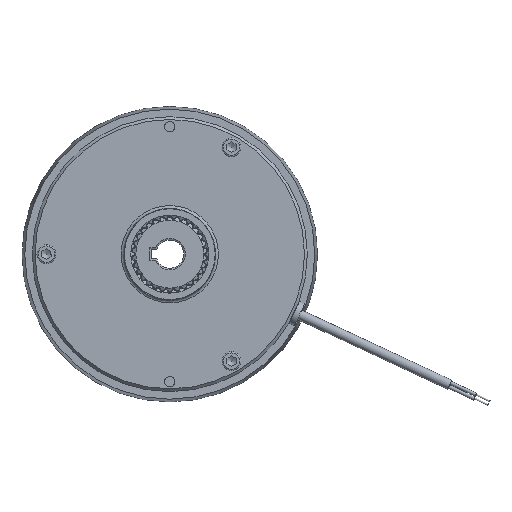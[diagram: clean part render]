
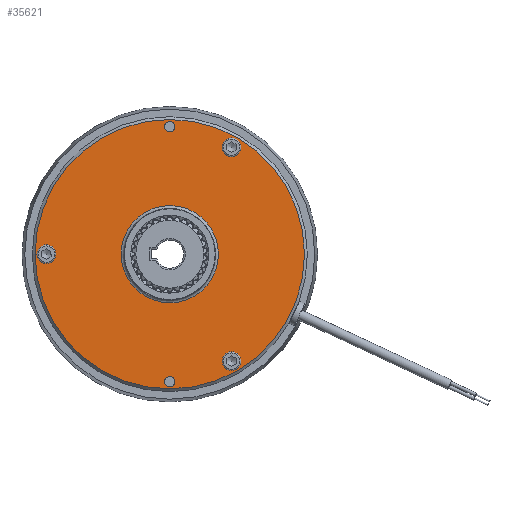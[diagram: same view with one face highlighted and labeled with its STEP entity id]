
A CAD part, left-side view. The second image highlights one B-rep face of the part: STEP entity #35621.
In plain terms, the highlighted planar face has unit normal (-1, 0, 0).
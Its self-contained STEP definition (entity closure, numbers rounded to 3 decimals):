
#437=FACE_BOUND('',#3384,.T.);
#438=FACE_BOUND('',#3385,.T.);
#439=FACE_BOUND('',#3386,.T.);
#440=FACE_BOUND('',#3387,.T.);
#441=FACE_BOUND('',#3388,.T.);
#442=FACE_BOUND('',#3389,.T.);
#926=PLANE('',#38717);
#1619=FACE_OUTER_BOUND('',#3383,.T.);
#3383=EDGE_LOOP('',(#25594));
#3384=EDGE_LOOP('',(#25595,#25596));
#3385=EDGE_LOOP('',(#25597,#25598));
#3386=EDGE_LOOP('',(#25599,#25600));
#3387=EDGE_LOOP('',(#25601,#25602));
#3388=EDGE_LOOP('',(#25603,#25604));
#3389=EDGE_LOOP('',(#25605));
#11376=CIRCLE('',#38575,5.);
#11377=CIRCLE('',#38576,5.);
#11390=CIRCLE('',#38603,5.);
#11391=CIRCLE('',#38604,5.);
#11404=CIRCLE('',#38631,5.);
#11405=CIRCLE('',#38632,5.);
#11451=CIRCLE('',#38708,2.75);
#11452=CIRCLE('',#38709,2.75);
#11454=CIRCLE('',#38712,2.75);
#11455=CIRCLE('',#38713,2.75);
#11457=CIRCLE('',#38716,72.);
#11458=CIRCLE('',#38718,26.);
#14131=VERTEX_POINT('',#56205);
#14132=VERTEX_POINT('',#56206);
#14158=VERTEX_POINT('',#56297);
#14159=VERTEX_POINT('',#56298);
#14185=VERTEX_POINT('',#56389);
#14186=VERTEX_POINT('',#56390);
#14243=VERTEX_POINT('',#56797);
#14244=VERTEX_POINT('',#56798);
#14246=VERTEX_POINT('',#56805);
#14247=VERTEX_POINT('',#56806);
#14249=VERTEX_POINT('',#56813);
#14250=VERTEX_POINT('',#56817);
#18409=EDGE_CURVE('',#14131,#14132,#11376,.T.);
#18410=EDGE_CURVE('',#14132,#14131,#11377,.T.);
#18446=EDGE_CURVE('',#14158,#14159,#11390,.T.);
#18447=EDGE_CURVE('',#14159,#14158,#11391,.T.);
#18483=EDGE_CURVE('',#14185,#14186,#11404,.T.);
#18484=EDGE_CURVE('',#14186,#14185,#11405,.T.);
#18568=EDGE_CURVE('',#14243,#14244,#11451,.T.);
#18569=EDGE_CURVE('',#14244,#14243,#11452,.T.);
#18572=EDGE_CURVE('',#14246,#14247,#11454,.T.);
#18573=EDGE_CURVE('',#14247,#14246,#11455,.T.);
#18577=EDGE_CURVE('',#14249,#14249,#11457,.T.);
#18578=EDGE_CURVE('',#14250,#14250,#11458,.T.);
#25594=ORIENTED_EDGE('',*,*,#18577,.F.);
#25595=ORIENTED_EDGE('',*,*,#18409,.T.);
#25596=ORIENTED_EDGE('',*,*,#18410,.T.);
#25597=ORIENTED_EDGE('',*,*,#18446,.T.);
#25598=ORIENTED_EDGE('',*,*,#18447,.T.);
#25599=ORIENTED_EDGE('',*,*,#18483,.T.);
#25600=ORIENTED_EDGE('',*,*,#18484,.T.);
#25601=ORIENTED_EDGE('',*,*,#18568,.T.);
#25602=ORIENTED_EDGE('',*,*,#18569,.T.);
#25603=ORIENTED_EDGE('',*,*,#18572,.T.);
#25604=ORIENTED_EDGE('',*,*,#18573,.T.);
#25605=ORIENTED_EDGE('',*,*,#18578,.T.);
#35621=ADVANCED_FACE('',(#1619,#437,#438,#439,#440,#441,#442),#926,.T.);
#38575=AXIS2_PLACEMENT_3D('',#56207,#44966,#44967);
#38576=AXIS2_PLACEMENT_3D('',#56208,#44968,#44969);
#38603=AXIS2_PLACEMENT_3D('',#56299,#45038,#45039);
#38604=AXIS2_PLACEMENT_3D('',#56300,#45040,#45041);
#38631=AXIS2_PLACEMENT_3D('',#56391,#45110,#45111);
#38632=AXIS2_PLACEMENT_3D('',#56392,#45112,#45113);
#38708=AXIS2_PLACEMENT_3D('',#56799,#45290,#45291);
#38709=AXIS2_PLACEMENT_3D('',#56800,#45292,#45293);
#38712=AXIS2_PLACEMENT_3D('',#56807,#45299,#45300);
#38713=AXIS2_PLACEMENT_3D('',#56808,#45301,#45302);
#38716=AXIS2_PLACEMENT_3D('',#56815,#45309,#45310);
#38717=AXIS2_PLACEMENT_3D('',#56816,#45311,#45312);
#38718=AXIS2_PLACEMENT_3D('',#56818,#45313,#45314);
#44966=DIRECTION('center_axis',(1.,0.,0.));
#44967=DIRECTION('ref_axis',(0.,1.,-0.013));
#44968=DIRECTION('center_axis',(1.,0.,0.));
#44969=DIRECTION('ref_axis',(0.,1.,-0.013));
#45038=DIRECTION('center_axis',(1.,0.,0.));
#45039=DIRECTION('ref_axis',(0.,1.,0.));
#45040=DIRECTION('center_axis',(1.,0.,0.));
#45041=DIRECTION('ref_axis',(0.,1.,0.));
#45110=DIRECTION('center_axis',(1.,0.,0.));
#45111=DIRECTION('ref_axis',(0.,1.,0.));
#45112=DIRECTION('center_axis',(1.,0.,0.));
#45113=DIRECTION('ref_axis',(0.,1.,0.));
#45290=DIRECTION('center_axis',(1.,0.,0.));
#45291=DIRECTION('ref_axis',(0.,0.,
1.));
#45292=DIRECTION('center_axis',(1.,0.,0.));
#45293=DIRECTION('ref_axis',(0.,0.,
1.));
#45299=DIRECTION('center_axis',(1.,0.,0.));
#45300=DIRECTION('ref_axis',(0.,0.,
1.));
#45301=DIRECTION('center_axis',(1.,0.,0.));
#45302=DIRECTION('ref_axis',(0.,0.,
1.));
#45309=DIRECTION('center_axis',(1.,0.,0.));
#45310=DIRECTION('ref_axis',(0.,-1.,0.));
#45311=DIRECTION('center_axis',(-1.,0.,0.));
#45312=DIRECTION('ref_axis',(0.,0.,
1.));
#45313=DIRECTION('center_axis',(1.,0.,0.));
#45314=DIRECTION('ref_axis',(0.,0.,
1.));
#56205=CARTESIAN_POINT('',(-23.5,71.,-0.065));
#56206=CARTESIAN_POINT('',(-23.5,61.,0.065));
#56207=CARTESIAN_POINT('Origin',(-23.5,66.,0.));
#56208=CARTESIAN_POINT('Origin',(-23.5,66.,0.));
#56297=CARTESIAN_POINT('',(-23.5,-28.,57.158));
#56298=CARTESIAN_POINT('',(-23.5,-38.,57.158));
#56299=CARTESIAN_POINT('Origin',(-23.5,-33.,57.158));
#56300=CARTESIAN_POINT('Origin',(-23.5,-33.,57.158));
#56389=CARTESIAN_POINT('',(-23.5,-28.,-57.158));
#56390=CARTESIAN_POINT('',(-23.5,-38.,-57.158));
#56391=CARTESIAN_POINT('Origin',(-23.5,-33.,-57.158));
#56392=CARTESIAN_POINT('Origin',(-23.5,-33.,-57.158));
#56797=CARTESIAN_POINT('',(-23.5,0.,-65.4));
#56798=CARTESIAN_POINT('',(-23.5,0.,-70.9));
#56799=CARTESIAN_POINT('Origin',(-23.5,0.,-68.15));
#56800=CARTESIAN_POINT('Origin',(-23.5,0.,-68.15));
#56805=CARTESIAN_POINT('',(-23.5,0.,70.9));
#56806=CARTESIAN_POINT('',(-23.5,0.,65.4));
#56807=CARTESIAN_POINT('Origin',(-23.5,0.,68.15));
#56808=CARTESIAN_POINT('Origin',(-23.5,0.,68.15));
#56813=CARTESIAN_POINT('',(-23.5,72.,0.));
#56815=CARTESIAN_POINT('Origin',(-23.5,0.,0.));
#56816=CARTESIAN_POINT('Origin',(-23.5,36.75,0.));
#56817=CARTESIAN_POINT('',(-23.5,0.,-26.));
#56818=CARTESIAN_POINT('Origin',(-23.5,0.,0.));
